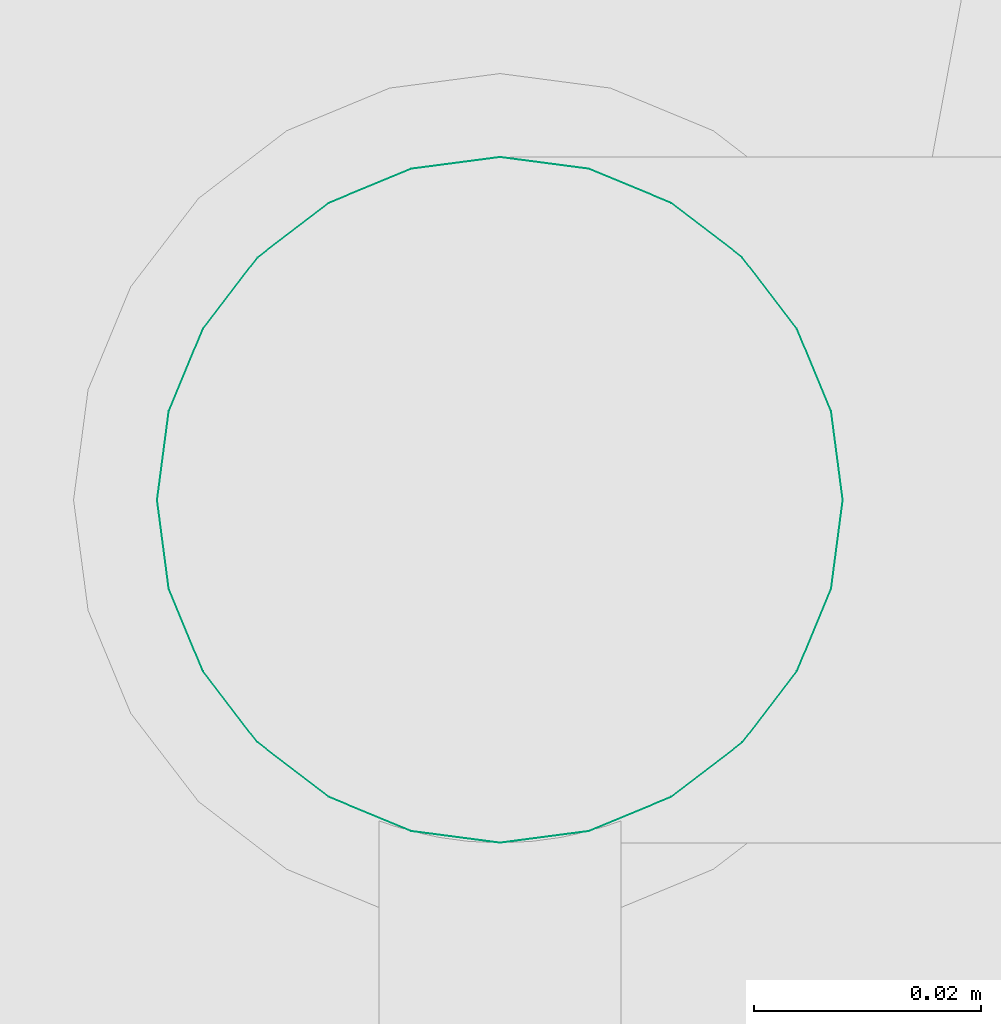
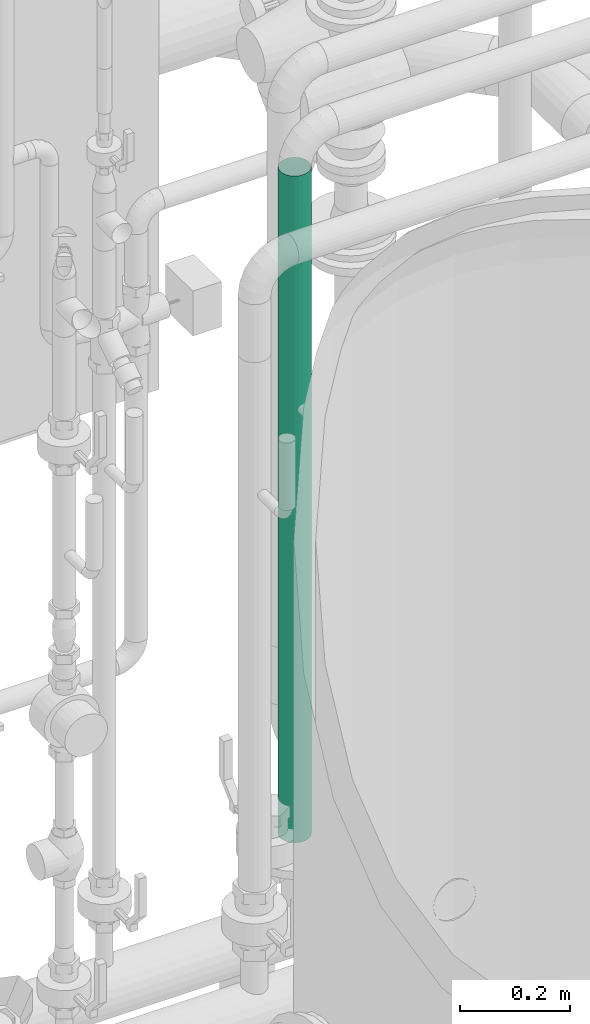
# One storey, part 212 of 374: 1 flow segment.
"""IFC2X3 building model written with IfcOpenShell, lengths in metres."""

import ifcopenshell
import ifcopenshell.guid

model = None  # the IFC model being written
_history = None  # IfcOwnerHistory: only IFC2X3 demands one
_inside = {}  # id of a spatial element -> (the spatial element, [elements in it])
_under = {}  # id of a project, library or spatial element -> (it, [spatial elements below it])
_declared = {}  # id of a project -> (the project, [libraries it declares])
_typed = {}  # id of a type object -> (the type object, [elements of that type])
_made_of = {}  # id of a material, layer set ... -> (it, [elements and type objects made of it])


def new_model(schema):
    """Start an empty IFC model of exactly this schema.

    Asked for "IFC4X3", IfcOpenShell would pick the latest addendum, in which some entities
    have other attributes; the version numbers below select the first issue.
    IFC2X3 requires an IfcOwnerHistory on every rooted entity: one is made here for all.
    """
    global model, _history
    if schema == "IFC4X3":
        model = ifcopenshell.file(schema_version=(4, 3, 0, 0))
    else:
        model = ifcopenshell.file(schema=schema)
    _inside.clear()
    _under.clear()
    _declared.clear()
    _typed.clear()
    _made_of.clear()
    _history = None
    if model.schema == "IFC2X3":
        org = make("IfcOrganization", Name="unknown")
        user = make(
            "IfcPersonAndOrganization",
            ThePerson=make("IfcPerson", FamilyName="unknown"),
            TheOrganization=org,
        )
        app = make(
            "IfcApplication",
            ApplicationDeveloper=org,
            Version="unknown",
            ApplicationFullName="unknown",
            ApplicationIdentifier="unknown",
        )
        _history = make(
            "IfcOwnerHistory",
            OwningUser=user,
            OwningApplication=app,
            ChangeAction="ADDED",
            CreationDate=0,
        )
    return model


def make(cls, **values):
    """One entity of the class cls with the attributes given. An attribute that is None is left unset."""
    return model.create_entity(
        cls, **{name: value for name, value in values.items() if value is not None}
    )


def rooted(cls, **values):
    """An entity with a GlobalId (a new one), such as an element, a storey or a relation."""
    return make(cls, GlobalId=ifcopenshell.guid.new(), OwnerHistory=_history, **values)


def si_unit(unit_type, name, prefix=None):
    """IfcSIUnit, for example si_unit("LENGTHUNIT", "METRE", prefix="MILLI")."""
    return make("IfcSIUnit", UnitType=unit_type, Prefix=prefix, Name=name)


def assignment(units):
    """IfcUnitAssignment: the units of a project."""
    return None if units is None else make("IfcUnitAssignment", Units=units)


def point(xyz):
    """IfcCartesianPoint."""
    return None if xyz is None else make("IfcCartesianPoint", Coordinates=xyz)


def direction(xyz):
    """IfcDirection."""
    return None if xyz is None else make("IfcDirection", DirectionRatios=xyz)


def frame(location, z_axis=None, x_axis=None):
    """IfcAxis2Placement3D, a coordinate frame: its origin and axes. An axis left out is left unset."""
    return make(
        "IfcAxis2Placement3D",
        Location=point(location),
        Axis=direction(z_axis),
        RefDirection=direction(x_axis),
    )


def origin():
    """The frame at (0, 0, 0) with its axes left unset."""
    return frame((0.0, 0.0, 0.0))


def place(relative_to, where):
    """IfcLocalPlacement: puts the frame where relative to a parent placement (None: the world)."""
    return make(
        "IfcLocalPlacement", PlacementRelTo=relative_to, RelativePlacement=where
    )


def context(
    kind, dimensions, precision=None, world=None, true_north=None, identifier=None
):
    """IfcGeometricRepresentationContext, for example the 3D "Model" context."""
    return make(
        "IfcGeometricRepresentationContext",
        ContextIdentifier=identifier,
        ContextType=kind,
        CoordinateSpaceDimension=dimensions,
        Precision=precision,
        WorldCoordinateSystem=world,
        TrueNorth=true_north,
    )


def subcontext(parent, identifier, kind, view, scale=None):
    """IfcGeometricRepresentationSubContext, for example "Body" below "Model"."""
    return make(
        "IfcGeometricRepresentationSubContext",
        ContextIdentifier=identifier,
        ContextType=kind,
        ParentContext=parent,
        TargetScale=scale,
        TargetView=view,
    )


def project(units=None, contexts=None):
    """IfcProject with its units and contexts."""
    return rooted(
        "IfcProject",
        Name="project",
        RepresentationContexts=contexts,
        UnitsInContext=assignment(units),
    )


def spatial(cls, under=None, at=None, **own):
    """A site, building, storey or space (cls), placed at a placement, below another one or the project."""
    s = rooted(cls, ObjectPlacement=at, **own)
    if under is not None:
        _under.setdefault(under.id(), (under, []))[1].append(s)
    return s


def faces_of(points, faces, orient=None, outer=None):
    """IfcFace entities. A face is a list of loops; a loop is a list of indices into points, from 0.

    orient and outer hold one flag for each loop. By default every Orientation is true, the
    first loop of a face is its IfcFaceOuterBound and the others are IfcFaceBound.
    """
    made = []
    for i, loops in enumerate(faces):
        bounds = []
        for j, loop in enumerate(loops):
            is_outer = j == 0 if outer is None else outer[i][j]
            bounds.append(
                make(
                    "IfcFaceOuterBound" if is_outer else "IfcFaceBound",
                    Bound=make("IfcPolyLoop", Polygon=[points[k] for k in loop]),
                    Orientation=True if orient is None else orient[i][j],
                )
            )
        made.append(make("IfcFace", Bounds=bounds))
    return made


def open_shell(faces, orient=None, outer=None):
    """The faces of one IfcOpenShell. surface_model builds it on its shared points."""
    return ("IfcOpenShell", faces, orient, outer)


def surface_model(cls, points, shells):
    """IfcFaceBasedSurfaceModel or IfcShellBasedSurfaceModel (cls): surfaces that need not close."""
    shared = [point(p) for p in points]
    made = [make(c, CfsFaces=faces_of(shared, fs, o, b)) for c, fs, o, b in shells]
    if cls == "IfcFaceBasedSurfaceModel":
        return make(cls, FbsmFaces=made)
    return make(cls, SbsmBoundary=made)


def shape(context_of_items, identifier, shape_type, items):
    """IfcShapeRepresentation: the items that make up one representation, for example the "Body"."""
    return make(
        "IfcShapeRepresentation",
        ContextOfItems=context_of_items,
        RepresentationIdentifier=identifier,
        RepresentationType=shape_type,
        Items=items,
    )


def source(mapping_origin, context_of_items, identifier, shape_type, items):
    """IfcRepresentationMap: a shape defined once, which mapped items show again and again."""
    return make(
        "IfcRepresentationMap",
        MappingOrigin=mapping_origin,
        MappedRepresentation=shape(context_of_items, identifier, shape_type, items),
    )


def transform(
    local_origin,
    x_axis=None,
    y_axis=None,
    z_axis=None,
    scale=None,
    scale2=None,
    scale3=None,
    uniform=True,
):
    """IfcCartesianTransformationOperator3D, or its non-uniform kind. x_axis, y_axis, z_axis: its Axis1, 2, 3."""
    if uniform:
        return make(
            "IfcCartesianTransformationOperator3D",
            Axis1=direction(x_axis),
            Axis2=direction(y_axis),
            LocalOrigin=point(local_origin),
            Scale=scale,
            Axis3=direction(z_axis),
        )
    return make(
        "IfcCartesianTransformationOperator3DnonUniform",
        Axis1=direction(x_axis),
        Axis2=direction(y_axis),
        LocalOrigin=point(local_origin),
        Scale=scale,
        Axis3=direction(z_axis),
        Scale2=scale2,
        Scale3=scale3,
    )


def mapped(mapping_source, mapping_target):
    """IfcMappedItem: shows the shape of a source again, moved by a transform."""
    return make(
        "IfcMappedItem", MappingSource=mapping_source, MappingTarget=mapping_target
    )


def made_of(thing, what):
    """Note that an element or type object is made of a material, layer set ...; save() writes the relation."""
    if what is not None:
        _made_of.setdefault(what.id(), (what, []))[1].append(thing)
    return thing


def element(
    cls,
    number,
    at=None,
    inside=None,
    cuts=None,
    type_object=None,
    material=None,
    context=None,
    identifier="Body",
    shape_type=None,
    held_by="IfcProductDefinitionShape",
    body=None,
    shapes=None,
    **own,
):
    """One element of the class cls, such as IfcWall. Its Tag is "e" and its number.

    at: its placement. inside: the storey or other place that contains it. cuts: it is an
    opening in that element (IfcRelVoidsElement). A single representation is given by context,
    identifier, shape_type and body (its items); several are given by shapes. held_by: the class
    of the entity that holds the representations. save() writes the other relations.
    """
    e = rooted(cls, Tag="e%d" % number, ObjectPlacement=at, **own)
    if body is not None:
        shapes = [shape(context, identifier, shape_type, body)]
    if shapes is not None:
        e.Representation = make(held_by, Representations=shapes)
    if inside is not None:
        _inside.setdefault(inside.id(), (inside, []))[1].append(e)
    if cuts is not None:
        rooted(
            "IfcRelVoidsElement", RelatingBuildingElement=cuts, RelatedOpeningElement=e
        )
    if type_object is not None:
        _typed.setdefault(type_object.id(), (type_object, []))[1].append(e)
    return made_of(e, material)


def aggregate(whole, parts):
    """IfcRelAggregates: a whole, such as a stair, and the parts it consists of."""
    return rooted("IfcRelAggregates", RelatingObject=whole, RelatedObjects=parts)


def save(model, path):
    """Write the relations noted so far, then the file.

    IfcRelAggregates (storeys below a building ...), IfcRelContainedInSpatialStructure (elements
    in a storey), IfcRelDefinesByType, IfcRelAssociatesMaterial and IfcRelDeclares: one each for
    every whole, place, type object, material and project.
    """
    for whole, parts in _under.values():
        aggregate(whole, parts)
    for where, things in _inside.values():
        rooted(
            "IfcRelContainedInSpatialStructure",
            RelatedElements=things,
            RelatingStructure=where,
        )
    for kind, things in _typed.values():
        rooted("IfcRelDefinesByType", RelatedObjects=things, RelatingType=kind)
    for what, things in _made_of.values():
        rooted("IfcRelAssociatesMaterial", RelatedObjects=things, RelatingMaterial=what)
    for by, libraries in _declared.values():
        rooted("IfcRelDeclares", RelatingContext=by, RelatedDefinitions=libraries)
    model.write(path)


model = new_model("IFC2X3")

# Units and contexts
model_context = context("Model", 3, precision=1e-05, world=origin(), true_north=direction((-0.4480736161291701, 0.8939966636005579)))
body_context = subcontext(model_context, "Body", "Model", "MODEL_VIEW")
ifc_project = project(units=[si_unit("LENGTHUNIT", "METRE"), si_unit("AREAUNIT", "SQUARE_METRE"), si_unit("VOLUMEUNIT", "CUBIC_METRE"), si_unit("PLANEANGLEUNIT", "RADIAN"), si_unit("THERMODYNAMICTEMPERATUREUNIT", "KELVIN"), si_unit("MASSUNIT", "GRAM", prefix="KILO"), si_unit("TIMEUNIT", "SECOND")], contexts=[model_context])

# Site, building, storey
site_placement = place(None, origin())
site = spatial("IfcSite", under=ifc_project, at=site_placement, Name="Site 1", CompositionType="ELEMENT")
building_placement = place(site_placement, origin())
building = spatial("IfcBuilding", under=site, at=building_placement, Name="Undefined", CompositionType="ELEMENT")
storey_placement = place(building_placement, origin())
storey = spatial("IfcBuildingStorey", under=building, at=storey_placement, Name="Rez de chauss\x8ee", CompositionType="ELEMENT", Elevation=0.0)

# Flow segment
shared_shape = source(origin(), body_context, "Body", "SurfaceModel", [
    surface_model("IfcFaceBasedSurfaceModel", [(0.0, 0.007870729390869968, 7.105427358e-15), (0.0, 0.0, 0.0), (1.4814917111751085, 0.0, -3.552713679e-15), (1.4814917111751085, 0.007870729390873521, -3.552713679e-15), (0.0, -0.00760254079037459, -0.0020370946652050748), (1.4814917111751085, -0.007602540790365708, -0.0020370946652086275), (0.0, -0.01441879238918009, -0.00597245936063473), (1.4814917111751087, -0.014418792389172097, -0.005972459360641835), (0.0, -0.019984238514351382, -0.011537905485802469), (1.4814917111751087, -0.019984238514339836, -0.011537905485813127), (0.0, -0.023919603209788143, -0.018354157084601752), (1.4814917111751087, -0.023919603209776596, -0.018354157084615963), (0.0, -0.025956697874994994, -0.025956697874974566), (1.4814917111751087, -0.025956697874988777, -0.025956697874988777), (0.0, -0.025956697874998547, -0.03382742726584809), (1.4814917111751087, -0.02595669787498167, -0.033827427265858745), (0.0, -0.02391960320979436, -0.041429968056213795), (1.4814917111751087, -0.023919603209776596, -0.04142996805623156), (0.0, -0.019984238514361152, -0.04824621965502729), (1.4814917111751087, -0.019984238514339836, -0.048246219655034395), (0.0, -0.01441879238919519, -0.05381166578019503), (1.4814917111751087, -0.014418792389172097, -0.053811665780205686), (0.0, -0.007602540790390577, -0.05774703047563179), (1.4814917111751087, -0.007602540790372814, -0.057747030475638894), (0.0, -1.7763568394e-14, -0.05978412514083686), (1.4814917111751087, 0.0, -0.059784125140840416), (0.0, 0.007870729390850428, -0.05978412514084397), (1.4814917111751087, 0.007870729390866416, -0.05978412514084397), (0.0, 0.015473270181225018, -0.057747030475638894), (1.4814917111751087, 0.01547327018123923, -0.057747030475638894), (0.0, 0.022289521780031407, -0.05381166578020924), (1.4814917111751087, 0.022289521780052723, -0.053811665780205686), (0.0, 0.027854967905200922, -0.048246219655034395), (1.4814917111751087, 0.02785496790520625, -0.048246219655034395), (0.0, 0.031790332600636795, -0.04142996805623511), (1.4814917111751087, 0.03179033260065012, -0.04142996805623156), (0.0, 0.033827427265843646, -0.0338274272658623), (1.4814917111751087, 0.03382742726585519, -0.033827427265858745), (0.0, 0.0338274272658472, -0.025956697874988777), (1.4814917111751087, 0.03382742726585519, -0.025956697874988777), (0.0, 0.0317903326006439, -0.01835415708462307), (1.4814917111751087, 0.03179033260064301, -0.018354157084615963), (0.0, 0.02785496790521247, -0.01153790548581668), (1.4814917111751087, 0.027854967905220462, -0.011537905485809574), (0.0, 0.022289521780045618, -0.005972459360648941), (1.4814917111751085, 0.022289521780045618, -0.005972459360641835), (0.0, 0.015473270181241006, -0.0020370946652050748), (1.4814917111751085, 0.01547327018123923, -0.0020370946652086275)], [open_shell([[[0, 1, 2, 3]], [[1, 4, 5, 2]], [[4, 6, 7, 5]], [[6, 8, 9, 7]], [[8, 10, 11, 9]], [[10, 12, 13, 11]], [[12, 14, 15, 13]], [[14, 16, 17, 15]], [[16, 18, 19, 17]], [[18, 20, 21, 19]], [[20, 22, 23, 21]], [[22, 24, 25, 23]], [[24, 26, 27, 25]], [[26, 28, 29, 27]], [[28, 30, 31, 29]], [[30, 32, 33, 31]], [[32, 34, 35, 33]], [[34, 36, 37, 35]], [[36, 38, 39, 37]], [[38, 40, 41, 39]], [[40, 42, 43, 41]], [[42, 44, 45, 43]], [[44, 46, 47, 45]], [[46, 0, 3, 47]]])]),
])
flow_segment_placement = place(storey_placement, origin())
element("IfcFlowSegment", 1, at=flow_segment_placement, inside=storey, Name="Tube acier d'après DIN 2448", ObjectType="Tube acier d'après DIN 2448", context=body_context, shape_type="MappedRepresentation", body=[
    mapped(shared_shape, transform((54.26536541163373, 10.947159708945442, 1.983641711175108), x_axis=(0.0, 0.0, -1.0), y_axis=(-0.9914448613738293, 0.13052619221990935, 0.0), z_axis=(0.13052619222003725, 0.9914448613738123, 0.0))),
])

save(model, "model.ifc")
